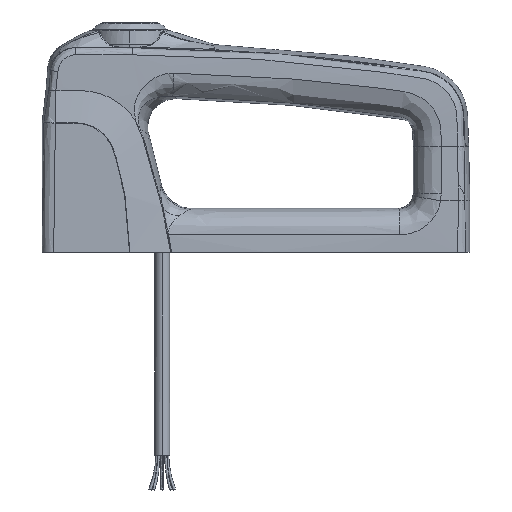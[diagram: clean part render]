
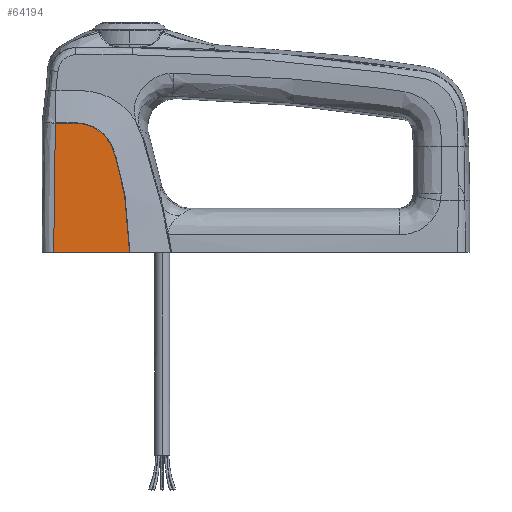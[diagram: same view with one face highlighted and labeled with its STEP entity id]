
A CAD part, front view. The second image highlights one B-rep face of the part: STEP entity #64194.
In plain terms, the highlighted planar face has unit normal (0, -1, 0).
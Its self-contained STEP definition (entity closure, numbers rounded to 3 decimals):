
#1773 = CARTESIAN_POINT ( 'NONE',  ( 33.711, -20., 5.757 ) ) ;
#2096 = CARTESIAN_POINT ( 'NONE',  ( 49.341, -20., 0.812 ) ) ;
#2423 = CARTESIAN_POINT ( 'NONE',  ( 47.787, -20., 2.262 ) ) ;
#2739 = CARTESIAN_POINT ( 'NONE',  ( 52.324, -20., -3.945 ) ) ;
#4213 = EDGE_CURVE ( 'NONE', #42654, #20378, #18473, .T. ) ;
#7279 = CARTESIAN_POINT ( 'NONE',  ( 40.126, -20., 5.676 ) ) ;
#7601 = CARTESIAN_POINT ( 'NONE',  ( 46.065, -20., 3.501 ) ) ;
#7917 = CARTESIAN_POINT ( 'NONE',  ( 37.993, -20., 5.755 ) ) ;
#10312 = CARTESIAN_POINT ( 'NONE',  ( 29.455, -20., -23.612 ) ) ;
#10944 = CARTESIAN_POINT ( 'NONE',  ( 29.952, -20., 2.631 ) ) ;
#11823 = CARTESIAN_POINT ( 'NONE',  ( 50.665, -20., -0.833 ) ) ;
#12447 = CARTESIAN_POINT ( 'NONE',  ( 31.57, -20., 5.758 ) ) ;
#12554 = DIRECTION ( 'NONE',  ( 0., 0., -1. ) ) ;
#12768 = CARTESIAN_POINT ( 'NONE',  ( 44.186, -20., 4.469 ) ) ;
#15180 = CARTESIAN_POINT ( 'NONE',  ( 29.495, -20., -36.7 ) ) ;
#15814 = CARTESIAN_POINT ( 'NONE',  ( 29.437, -20., -19.544 ) ) ;
#16694 = CARTESIAN_POINT ( 'NONE',  ( 35.852, -20., 5.756 ) ) ;
#17009 = CARTESIAN_POINT ( 'NONE',  ( 53.204, -20., -6.592 ) ) ;
#17121 = FACE_OUTER_BOUND ( 'NONE', #43773, .T. ) ;
#17632 = CARTESIAN_POINT ( 'NONE',  ( 52.995, -20., -5.927 ) ) ;
#18473 = LINE ( 'NONE', #27914, #34770 ) ;
#20378 = VERTEX_POINT ( 'NONE', #37109 ) ;
#21576 = CARTESIAN_POINT ( 'NONE',  ( 58.928, -20., -44.3 ) ) ;
#21891 = CARTESIAN_POINT ( 'NONE',  ( 51.903, -20., -2.983 ) ) ;
#22214 = CARTESIAN_POINT ( 'NONE',  ( 48.851, -20., 1.319 ) ) ;
#22523 = CARTESIAN_POINT ( 'NONE',  ( 44.509, -20., 4.323 ) ) ;
#23829 = CARTESIAN_POINT ( 'NONE',  ( 58.928, -20., -44.3 ) ) ;
#25883 = CARTESIAN_POINT ( 'NONE',  ( 29.5, -20., -44.3 ) ) ;
#27091 = CARTESIAN_POINT ( 'NONE',  ( 52.567, -20., -4.599 ) ) ;
#27418 = CARTESIAN_POINT ( 'NONE',  ( 46.941, -20., 2.908 ) ) ;
#27914 = CARTESIAN_POINT ( 'NONE',  ( 16.418, -20., -44.3 ) ) ;
#28019 = B_SPLINE_CURVE_WITH_KNOTS ( 'NONE', 3,
 ( #25883, #40496, #15180, #30436, #35005, #54816, #10312, #50261, #60288, #30125, #15814, #35636, #49947, #55440, #45694, #10944, #40823, #37863, #31720, #57342 ),
 .UNSPECIFIED., .F., .F.,
 ( 4, 2, 2, 2, 2, 2, 2, 2, 2, 4 ),
 ( 0., 0.225, 0.362, 0.431, 0.466, 0.5, 0.775, 0.912, 0.981, 0.998 ),
 .UNSPECIFIED. ) ;
#30125 = CARTESIAN_POINT ( 'NONE',  ( 29.44, -20., -20.129 ) ) ;
#30436 = CARTESIAN_POINT ( 'NONE',  ( 29.48, -20., -30.579 ) ) ;
#31323 = CARTESIAN_POINT ( 'NONE',  ( 56.198, -20., -18.07 ) ) ;
#31644 = CARTESIAN_POINT ( 'NONE',  ( 52.674, -20., -4.931 ) ) ;
#31720 = CARTESIAN_POINT ( 'NONE',  ( 30.125, -20., 5.474 ) ) ;
#31963 = CARTESIAN_POINT ( 'NONE',  ( 51.747, -20., -2.668 ) ) ;
#32279 = CARTESIAN_POINT ( 'NONE',  ( 41.509, -20., 5.421 ) ) ;
#32597 = CARTESIAN_POINT ( 'NONE',  ( 37.279, -20., 5.755 ) ) ;
#34770 = VECTOR ( 'NONE', #62635, 1000. ) ;
#35005 = CARTESIAN_POINT ( 'NONE',  ( 29.472, -20., -28.257 ) ) ;
#35236 = CARTESIAN_POINT ( 'NONE',  ( 30.143, -20., 5.758 ) ) ;
#35636 = CARTESIAN_POINT ( 'NONE',  ( 29.418, -20., -14.428 ) ) ;
#35981 = DIRECTION ( 'NONE',  ( 0., 1., 0. ) ) ;
#36188 = CARTESIAN_POINT ( 'NONE',  ( 43.194, -20., 4.863 ) ) ;
#36509 = CARTESIAN_POINT ( 'NONE',  ( 51.413, -20., -2.045 ) ) ;
#36819 = CARTESIAN_POINT ( 'NONE',  ( 57.015, -20., -22.163 ) ) ;
#36937 = CARTESIAN_POINT ( 'NONE',  ( 23., -20., -48.639 ) ) ;
#37109 = CARTESIAN_POINT ( 'NONE',  ( 29.5, -20., -44.3 ) ) ;
#37135 = CARTESIAN_POINT ( 'NONE',  ( 58.56, -20., -33.158 ) ) ;
#37243 = CARTESIAN_POINT ( 'NONE',  ( 30.143, -20., 5.758 ) ) ;
#37455 = CARTESIAN_POINT ( 'NONE',  ( 55.903, -20., -16.709 ) ) ;
#37863 = CARTESIAN_POINT ( 'NONE',  ( 30.107, -20., 5.191 ) ) ;
#37966 = ORIENTED_EDGE ( 'NONE', *, *, #40514, .F. ) ;
#40496 = CARTESIAN_POINT ( 'NONE',  ( 29.499, -20., -40.5 ) ) ;
#40514 = EDGE_CURVE ( 'NONE', #20378, #53509, #28019, .T. ) ;
#40823 = CARTESIAN_POINT ( 'NONE',  ( 30.017, -20., 3.77 ) ) ;
#41653 = ORIENTED_EDGE ( 'NONE', *, *, #47118, .F. ) ;
#41696 = CARTESIAN_POINT ( 'NONE',  ( 58.928, -20., -38.706 ) ) ;
#41845 = AXIS2_PLACEMENT_3D ( 'NONE', #36937, #35981, #12554 ) ;
#42020 = CARTESIAN_POINT ( 'NONE',  ( 50.248, -20., -0.264 ) ) ;
#42330 = CARTESIAN_POINT ( 'NONE',  ( 54.199, -20., -9.936 ) ) ;
#42654 = VERTEX_POINT ( 'NONE', #23829 ) ;
#43773 = EDGE_LOOP ( 'NONE', ( #37966, #59483, #41653 ) ) ;
#45694 = CARTESIAN_POINT ( 'NONE',  ( 29.776, -20., -0.786 ) ) ;
#46270 = CARTESIAN_POINT ( 'NONE',  ( 36.922, -20., 5.755 ) ) ;
#46589 = CARTESIAN_POINT ( 'NONE',  ( 52.191, -20., -3.622 ) ) ;
#46906 = CARTESIAN_POINT ( 'NONE',  ( 53.814, -20., -8.594 ) ) ;
#47118 = EDGE_CURVE ( 'NONE', #53509, #42654, #56894, .T. ) ;
#47225 = CARTESIAN_POINT ( 'NONE',  ( 48.061, -20., 2.031 ) ) ;
#49947 = CARTESIAN_POINT ( 'NONE',  ( 29.474, -20., -9.886 ) ) ;
#50261 = CARTESIAN_POINT ( 'NONE',  ( 29.448, -20., -21.871 ) ) ;
#51463 = CARTESIAN_POINT ( 'NONE',  ( 54.926, -20., -12.634 ) ) ;
#51774 = CARTESIAN_POINT ( 'NONE',  ( 43.529, -20., 4.739 ) ) ;
#52089 = CARTESIAN_POINT ( 'NONE',  ( 38.35, -20., 5.755 ) ) ;
#52405 = CARTESIAN_POINT ( 'NONE',  ( 51.233, -20., -1.736 ) ) ;
#53509 = VERTEX_POINT ( 'NONE', #37243 ) ;
#54816 = CARTESIAN_POINT ( 'NONE',  ( 29.46, -20., -24.773 ) ) ;
#55440 = CARTESIAN_POINT ( 'NONE',  ( 29.684, -20., -3.062 ) ) ;
#56001 = CARTESIAN_POINT ( 'NONE',  ( 47.227, -20., 2.7 ) ) ;
#56327 = CARTESIAN_POINT ( 'NONE',  ( 45.457, -20., 3.855 ) ) ;
#56894 = B_SPLINE_CURVE_WITH_KNOTS ( 'NONE', 3,
 ( #35236, #12447, #1773, #16694, #46270, #32597, #7917, #52089, #7279, #32279, #36188, #51774, #12768, #22523, #56327, #7601, #27418, #56001, #2423, #47225, #22214, #2096, #42020, #11823, #52405, #36509, #31963, #21891, #46589, #2739, #27091, #31644, #17632, #17009, #46906, #42330, #51463, #62115, #37455, #31323, #36819, #61799, #37135, #41696, #21576 ),
 .UNSPECIFIED., .F., .F.,
 ( 4, 1, 2, 2, 2, 2, 2, 2, 2, 2, 2, 2, 2, 2, 2, 2, 2, 2, 2, 2, 2, 2, 4 ),
 ( 0., 0.004, 0.006, 0.007, 0.009, 0.013, 0.014, 0.015, 0.017, 0.018, 0.019, 0.021, 0.024, 0.025, 0.026, 0.027, 0.028, 0.03, 0.034, 0.039, 0.043, 0.051, 0.069 ),
 .UNSPECIFIED. ) ;
#57342 = CARTESIAN_POINT ( 'NONE',  ( 30.143, -20., 5.758 ) ) ;
#59483 = ORIENTED_EDGE ( 'NONE', *, *, #4213, .F. ) ;
#60288 = CARTESIAN_POINT ( 'NONE',  ( 29.446, -20., -21.29 ) ) ;
#61799 = CARTESIAN_POINT ( 'NONE',  ( 57.469, -20., -24.904 ) ) ;
#61911 = PLANE ( 'NONE',  #41845 ) ;
#62115 = CARTESIAN_POINT ( 'NONE',  ( 55.267, -20., -13.991 ) ) ;
#62635 = DIRECTION ( 'NONE',  ( -1., 0., 0. ) ) ;
#64194 = ADVANCED_FACE ( 'NONE', ( #17121 ), #61911, .F. ) ;
